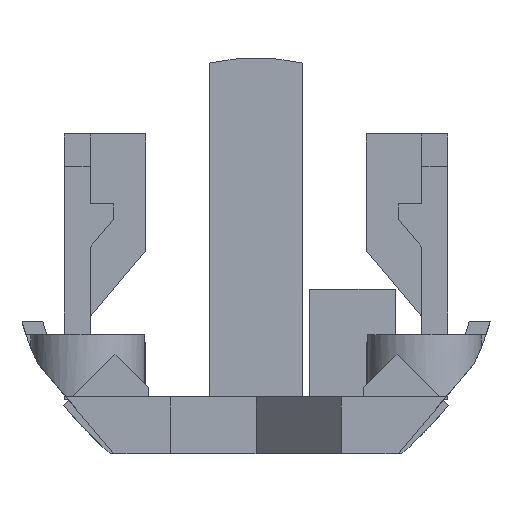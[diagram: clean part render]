
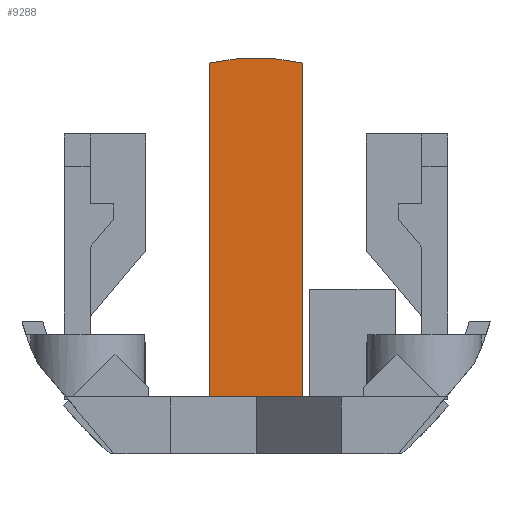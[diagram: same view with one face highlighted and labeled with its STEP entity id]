
A CAD part, left-side view. The second image highlights one B-rep face of the part: STEP entity #9288.
In plain terms, the highlighted planar face has unit normal (-1, 0, 0).
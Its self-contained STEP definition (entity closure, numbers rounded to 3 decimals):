
#7277 = PLANE('',#7278);
#7278 = AXIS2_PLACEMENT_3D('',#7279,#7280,#7281);
#7279 = CARTESIAN_POINT('',(213.,-22.,-12.));
#7280 = DIRECTION('',(0.,0.,-1.));
#7281 = DIRECTION('',(1.,0.,0.));
#8242 = VERTEX_POINT('',#8243);
#8243 = CARTESIAN_POINT('',(303.4,3.6,-12.));
#8258 = PLANE('',#8259);
#8259 = AXIS2_PLACEMENT_3D('',#8260,#8261,#8262);
#8260 = CARTESIAN_POINT('',(303.4,3.6,-13.));
#8261 = DIRECTION('',(-0.,1.,0.));
#8262 = DIRECTION('',(0.,0.,1.));
#8270 = EDGE_CURVE('',#8242,#8271,#8273,.T.);
#8271 = VERTEX_POINT('',#8272);
#8272 = CARTESIAN_POINT('',(303.4,-3.6,-12.));
#8273 = SURFACE_CURVE('',#8274,(#8278,#8284),.PCURVE_S1.);
#8274 = LINE('',#8275,#8276);
#8275 = CARTESIAN_POINT('',(303.4,-12.8,-12.));
#8276 = VECTOR('',#8277,1.);
#8277 = DIRECTION('',(0.,-1.,0.));
#8278 = PCURVE('',#7277,#8279);
#8279 = DEFINITIONAL_REPRESENTATION('',(#8280),#8283);
#8280 = B_SPLINE_CURVE_WITH_KNOTS('',1,(#8281,#8282),.UNSPECIFIED.,.F.,
  .F.,(2,2),(-16.4,-9.2),.PIECEWISE_BEZIER_KNOTS.);
#8281 = CARTESIAN_POINT('',(90.4,-25.6));
#8282 = CARTESIAN_POINT('',(90.4,-18.4));
#8283 = ( GEOMETRIC_REPRESENTATION_CONTEXT(2) 
PARAMETRIC_REPRESENTATION_CONTEXT() REPRESENTATION_CONTEXT('2D SPACE',''
  ) );
#8284 = PCURVE('',#8285,#8290);
#8285 = PLANE('',#8286);
#8286 = AXIS2_PLACEMENT_3D('',#8287,#8288,#8289);
#8287 = CARTESIAN_POINT('',(303.4,-3.6,-13.));
#8288 = DIRECTION('',(1.,0.,-0.));
#8289 = DIRECTION('',(0.,0.,1.));
#8290 = DEFINITIONAL_REPRESENTATION('',(#8291),#8294);
#8291 = B_SPLINE_CURVE_WITH_KNOTS('',1,(#8292,#8293),.UNSPECIFIED.,.F.,
  .F.,(2,2),(-16.4,-9.2),.PIECEWISE_BEZIER_KNOTS.);
#8292 = CARTESIAN_POINT('',(1.,-7.2));
#8293 = CARTESIAN_POINT('',(1.,0.));
#8294 = ( GEOMETRIC_REPRESENTATION_CONTEXT(2) 
PARAMETRIC_REPRESENTATION_CONTEXT() REPRESENTATION_CONTEXT('2D SPACE',''
  ) );
#8311 = PLANE('',#8312);
#8312 = AXIS2_PLACEMENT_3D('',#8313,#8314,#8315);
#8313 = CARTESIAN_POINT('',(303.4,-3.6,-13.));
#8314 = DIRECTION('',(-0.,1.,0.));
#8315 = DIRECTION('',(0.,0.,1.));
#8790 = CYLINDRICAL_SURFACE('',#8791,15.4);
#8791 = AXIS2_PLACEMENT_3D('',#8792,#8793,#8794);
#8792 = CARTESIAN_POINT('',(302.4,0.,0.));
#8793 = DIRECTION('',(1.,0.,0.));
#8794 = DIRECTION('',(-0.,0.,1.));
#8805 = EDGE_CURVE('',#8806,#8808,#8810,.T.);
#8806 = VERTEX_POINT('',#8807);
#8807 = CARTESIAN_POINT('',(303.4,-3.6,14.973));
#8808 = VERTEX_POINT('',#8809);
#8809 = CARTESIAN_POINT('',(303.4,3.6,14.973));
#8810 = SURFACE_CURVE('',#8811,(#8816,#8823),.PCURVE_S1.);
#8811 = CIRCLE('',#8812,15.4);
#8812 = AXIS2_PLACEMENT_3D('',#8813,#8814,#8815);
#8813 = CARTESIAN_POINT('',(303.4,0.,0.));
#8814 = DIRECTION('',(-1.,0.,0.));
#8815 = DIRECTION('',(0.,-0.234,0.972));
#8816 = PCURVE('',#8790,#8817);
#8817 = DEFINITIONAL_REPRESENTATION('',(#8818),#8822);
#8818 = LINE('',#8819,#8820);
#8819 = CARTESIAN_POINT('',(6.519,1.));
#8820 = VECTOR('',#8821,1.);
#8821 = DIRECTION('',(-1.,-0.));
#8822 = ( GEOMETRIC_REPRESENTATION_CONTEXT(2) 
PARAMETRIC_REPRESENTATION_CONTEXT() REPRESENTATION_CONTEXT('2D SPACE',''
  ) );
#8823 = PCURVE('',#8285,#8824);
#8824 = DEFINITIONAL_REPRESENTATION('',(#8825),#8833);
#8825 = ( BOUNDED_CURVE() B_SPLINE_CURVE(2,(#8826,#8827,#8828,#8829,
#8830,#8831,#8832),.UNSPECIFIED.,.T.,.F.) B_SPLINE_CURVE_WITH_KNOTS((1,2
    ,2,2,2,1),(-2.094,0.,2.094,4.189,
6.283,8.378),.UNSPECIFIED.) CURVE() 
GEOMETRIC_REPRESENTATION_ITEM() RATIONAL_B_SPLINE_CURVE((1.,0.5,1.,0.5,
1.,0.5,1.)) REPRESENTATION_ITEM('') );
#8826 = CARTESIAN_POINT('',(27.973,0.));
#8827 = CARTESIAN_POINT('',(34.209,-25.935));
#8828 = CARTESIAN_POINT('',(8.631,-18.367));
#8829 = CARTESIAN_POINT('',(-16.947,-10.8));
#8830 = CARTESIAN_POINT('',(2.396,7.567));
#8831 = CARTESIAN_POINT('',(21.738,25.935));
#8832 = CARTESIAN_POINT('',(27.973,0.));
#8833 = ( GEOMETRIC_REPRESENTATION_CONTEXT(2) 
PARAMETRIC_REPRESENTATION_CONTEXT() REPRESENTATION_CONTEXT('2D SPACE',''
  ) );
#8883 = EDGE_CURVE('',#8271,#8806,#8884,.T.);
#8884 = SURFACE_CURVE('',#8885,(#8889,#8896),.PCURVE_S1.);
#8885 = LINE('',#8886,#8887);
#8886 = CARTESIAN_POINT('',(303.4,-3.6,-13.));
#8887 = VECTOR('',#8888,1.);
#8888 = DIRECTION('',(0.,0.,1.));
#8889 = PCURVE('',#8311,#8890);
#8890 = DEFINITIONAL_REPRESENTATION('',(#8891),#8895);
#8891 = LINE('',#8892,#8893);
#8892 = CARTESIAN_POINT('',(0.,0.));
#8893 = VECTOR('',#8894,1.);
#8894 = DIRECTION('',(1.,0.));
#8895 = ( GEOMETRIC_REPRESENTATION_CONTEXT(2) 
PARAMETRIC_REPRESENTATION_CONTEXT() REPRESENTATION_CONTEXT('2D SPACE',''
  ) );
#8896 = PCURVE('',#8285,#8897);
#8897 = DEFINITIONAL_REPRESENTATION('',(#8898),#8902);
#8898 = LINE('',#8899,#8900);
#8899 = CARTESIAN_POINT('',(0.,0.));
#8900 = VECTOR('',#8901,1.);
#8901 = DIRECTION('',(1.,0.));
#8902 = ( GEOMETRIC_REPRESENTATION_CONTEXT(2) 
PARAMETRIC_REPRESENTATION_CONTEXT() REPRESENTATION_CONTEXT('2D SPACE',''
  ) );
#9288 = ADVANCED_FACE('',(#9289),#8285,.F.);
#9289 = FACE_BOUND('',#9290,.F.);
#9290 = EDGE_LOOP('',(#9291,#9292,#9293,#9314));
#9291 = ORIENTED_EDGE('',*,*,#8883,.F.);
#9292 = ORIENTED_EDGE('',*,*,#8270,.F.);
#9293 = ORIENTED_EDGE('',*,*,#9294,.T.);
#9294 = EDGE_CURVE('',#8242,#8808,#9295,.T.);
#9295 = SURFACE_CURVE('',#9296,(#9300,#9307),.PCURVE_S1.);
#9296 = LINE('',#9297,#9298);
#9297 = CARTESIAN_POINT('',(303.4,3.6,-13.));
#9298 = VECTOR('',#9299,1.);
#9299 = DIRECTION('',(0.,0.,1.));
#9300 = PCURVE('',#8285,#9301);
#9301 = DEFINITIONAL_REPRESENTATION('',(#9302),#9306);
#9302 = LINE('',#9303,#9304);
#9303 = CARTESIAN_POINT('',(0.,-7.2));
#9304 = VECTOR('',#9305,1.);
#9305 = DIRECTION('',(1.,0.));
#9306 = ( GEOMETRIC_REPRESENTATION_CONTEXT(2) 
PARAMETRIC_REPRESENTATION_CONTEXT() REPRESENTATION_CONTEXT('2D SPACE',''
  ) );
#9307 = PCURVE('',#8258,#9308);
#9308 = DEFINITIONAL_REPRESENTATION('',(#9309),#9313);
#9309 = LINE('',#9310,#9311);
#9310 = CARTESIAN_POINT('',(0.,0.));
#9311 = VECTOR('',#9312,1.);
#9312 = DIRECTION('',(1.,0.));
#9313 = ( GEOMETRIC_REPRESENTATION_CONTEXT(2) 
PARAMETRIC_REPRESENTATION_CONTEXT() REPRESENTATION_CONTEXT('2D SPACE',''
  ) );
#9314 = ORIENTED_EDGE('',*,*,#8805,.F.);
